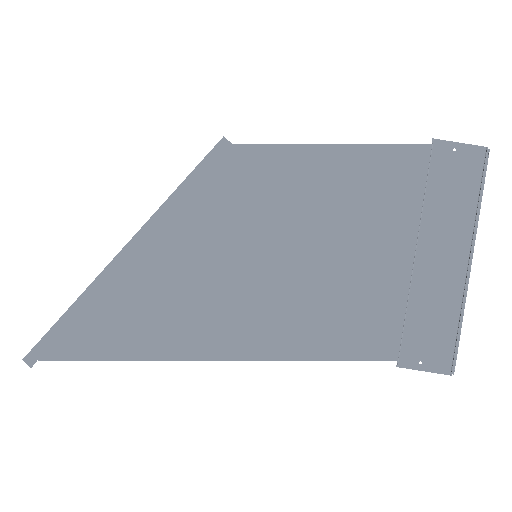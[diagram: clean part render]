
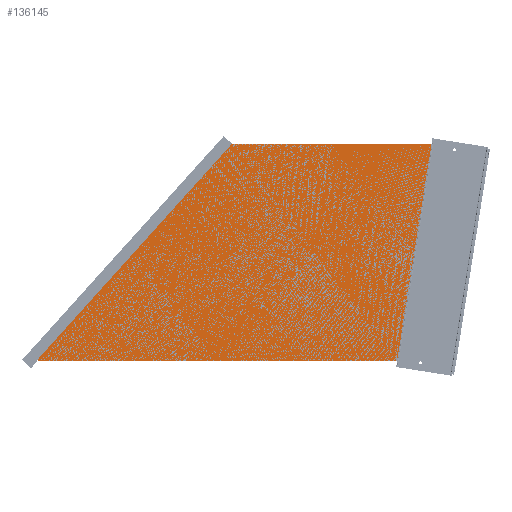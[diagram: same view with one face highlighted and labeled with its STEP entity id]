
A CAD part, front view. The second image highlights one B-rep face of the part: STEP entity #136145.
In plain terms, the highlighted planar face has unit normal (0, -1, 0).
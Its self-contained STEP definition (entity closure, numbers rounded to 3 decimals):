
#8725=FACE_OUTER_BOUND('',#38569,.T.);
#15318=LINE('',#241009,#22489);
#15330=LINE('',#241033,#22501);
#15345=LINE('',#241230,#22516);
#15346=LINE('',#241232,#22517);
#15347=LINE('',#241234,#22518);
#22489=VECTOR('',#193112,1.);
#22501=VECTOR('',#193132,1.);
#22516=VECTOR('',#193191,1.);
#22517=VECTOR('',#193194,1.);
#22518=VECTOR('',#193195,1.);
#28004=PLANE('',#167089);
#38569=EDGE_LOOP('',(#58870,#58871,#58872,#58873,#58874));
#58870=ORIENTED_EDGE('',*,*,#86049,.F.);
#58871=ORIENTED_EDGE('',*,*,#86090,.F.);
#58872=ORIENTED_EDGE('',*,*,#86061,.F.);
#58873=ORIENTED_EDGE('',*,*,#86091,.F.);
#58874=ORIENTED_EDGE('',*,*,#86092,.F.);
#86049=EDGE_CURVE('LINE',#153196,#153197,#15318,.T.);
#86061=EDGE_CURVE('LINE',#153204,#153205,#15330,.T.);
#86090=EDGE_CURVE('LINE',#153205,#153196,#15345,.T.);
#86091=EDGE_CURVE('LINE',#153221,#153204,#15346,.T.);
#86092=EDGE_CURVE('LINE',#153197,#153221,#15347,.T.);
#136145=ADVANCED_FACE('',(#8725),#28004,.F.);
#153196=VERTEX_POINT('',#241008);
#153197=VERTEX_POINT('',#241010);
#153204=VERTEX_POINT('',#241032);
#153205=VERTEX_POINT('',#241034);
#153221=VERTEX_POINT('',#241233);
#167089=AXIS2_PLACEMENT_3D('',#241235,#193196,#193197);
#193112=DIRECTION('',(-0.157,0.,-0.988));
#193132=DIRECTION('',(0.669,0.,0.743));
#193191=DIRECTION('',(1.,0.,0.));
#193194=DIRECTION('',(-0.743,0.,0.669));
#193195=DIRECTION('',(-1.,0.,0.));
#193196=DIRECTION('',(0.,1.,0.));
#193197=DIRECTION('',(0.,0.,1.));
#241008=CARTESIAN_POINT('',(4727.506,-1177.,12215.209));
#241009=CARTESIAN_POINT('',(4635.361,-1177.,11634.741));
#241010=CARTESIAN_POINT('',(4543.216,-1177.,11054.273));
#241032=CARTESIAN_POINT('',(2624.165,-1177.,11062.436));
#241033=CARTESIAN_POINT('',(3143.677,-1177.,11639.008));
#241034=CARTESIAN_POINT('',(3663.19,-1177.,12215.581));
#241230=CARTESIAN_POINT('',(4195.348,-1177.,12215.395));
#241232=CARTESIAN_POINT('',(2628.324,-1177.,11058.688));
#241233=CARTESIAN_POINT('',(2632.484,-1177.,11054.94));
#241234=CARTESIAN_POINT('',(3587.85,-1177.,11054.607));
#241235=CARTESIAN_POINT('',(4543.216,-1177.,11054.273));
